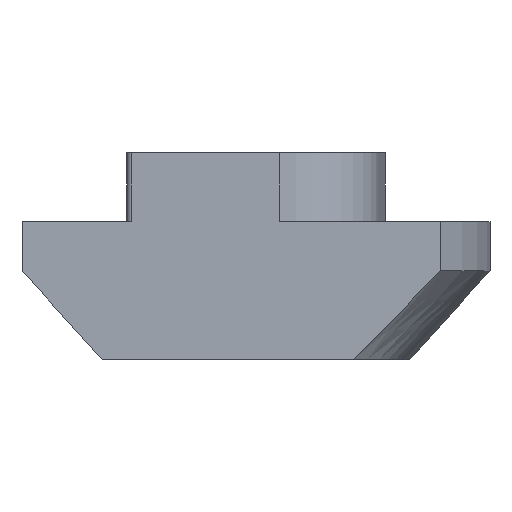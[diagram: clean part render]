
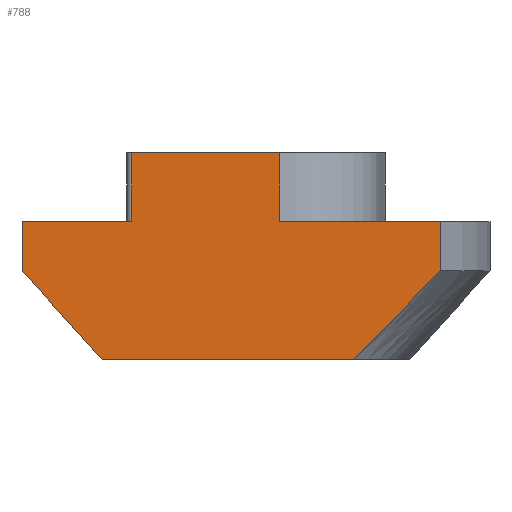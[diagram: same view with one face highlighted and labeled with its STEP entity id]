
A CAD part, front view. The second image highlights one B-rep face of the part: STEP entity #788.
In plain terms, the highlighted planar face has unit normal (0, -1, 0).
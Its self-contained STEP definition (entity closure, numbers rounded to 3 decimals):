
#118=CARTESIAN_POINT('',(-5.04,-4.9,2.8));
#119=VERTEX_POINT('',#118);
#129=CARTESIAN_POINT('',(0.956,-4.9,2.8));
#130=VERTEX_POINT('',#129);
#131=CARTESIAN_POINT('',(0.956,-4.9,2.8));
#132=DIRECTION('',(-1.0,0.0,0.0));
#133=VECTOR('',#132,5.996);
#134=LINE('',#131,#133);
#135=EDGE_CURVE('',#130,#119,#134,.T.);
#224=CARTESIAN_POINT('',(3.957,-4.9,-5.6));
#225=VERTEX_POINT('',#224);
#233=CARTESIAN_POINT('',(-6.251,-4.9,-5.6));
#234=VERTEX_POINT('',#233);
#235=CARTESIAN_POINT('',(-6.251,-4.9,-5.6));
#236=DIRECTION('',(1.0,0.0,0.0));
#237=VECTOR('',#236,10.208);
#238=LINE('',#235,#237);
#239=EDGE_CURVE('',#234,#225,#238,.T.);
#340=CARTESIAN_POINT('',(-9.5,-4.9,-2.0));
#341=VERTEX_POINT('',#340);
#342=CARTESIAN_POINT('',(-6.251,-4.9,-5.6));
#343=DIRECTION('',(-0.67,0.0,0.742));
#344=VECTOR('',#343,4.849);
#345=LINE('',#342,#344);
#346=EDGE_CURVE('',#234,#341,#345,.T.);
#409=CARTESIAN_POINT('',(7.5,-4.9,-2.0));
#410=VERTEX_POINT('',#409);
#418=CARTESIAN_POINT('',(3.957,-4.9,-5.6));
#419=CARTESIAN_POINT('',(5.138,-4.9,-4.4));
#420=CARTESIAN_POINT('',(6.319,-4.9,-3.2));
#421=CARTESIAN_POINT('',(7.5,-4.9,-2.0));
#422=QUASI_UNIFORM_CURVE('',3,(#418,#419,#420,#421),.UNSPECIFIED.,.F.,.U.);
#423=EDGE_CURVE('',#225,#410,#422,.T.);
#469=CARTESIAN_POINT('',(0.956,-4.9,0.0));
#470=VERTEX_POINT('',#469);
#480=CARTESIAN_POINT('',(7.5,-4.9,0.0));
#481=VERTEX_POINT('',#480);
#482=CARTESIAN_POINT('',(7.5,-4.9,0.0));
#483=DIRECTION('',(-1.0,0.0,0.0));
#484=VECTOR('',#483,6.544);
#485=LINE('',#482,#484);
#486=EDGE_CURVE('',#481,#470,#485,.T.);
#538=CARTESIAN_POINT('',(-5.04,-4.9,0.0));
#539=VERTEX_POINT('',#538);
#581=CARTESIAN_POINT('',(-9.5,-4.9,0.0));
#582=VERTEX_POINT('',#581);
#589=CARTESIAN_POINT('',(-5.04,-4.9,0.0));
#590=DIRECTION('',(-1.0,0.0,0.0));
#591=VECTOR('',#590,4.46);
#592=LINE('',#589,#591);
#593=EDGE_CURVE('',#539,#582,#592,.T.);
#611=CARTESIAN_POINT('',(7.5,-4.9,0.0));
#612=DIRECTION('',(0.0,0.0,-1.0));
#613=VECTOR('',#612,2.0);
#614=LINE('',#611,#613);
#615=EDGE_CURVE('',#481,#410,#614,.T.);
#665=CARTESIAN_POINT('',(-9.5,-4.9,0.0));
#666=DIRECTION('',(0.0,0.0,-1.0));
#667=VECTOR('',#666,2.0);
#668=LINE('',#665,#667);
#669=EDGE_CURVE('',#582,#341,#668,.T.);
#689=CARTESIAN_POINT('',(-5.04,-4.9,0.0));
#690=DIRECTION('',(0.0,0.0,1.0));
#691=VECTOR('',#690,2.8);
#692=LINE('',#689,#691);
#693=EDGE_CURVE('',#539,#119,#692,.T.);
#760=CARTESIAN_POINT('',(0.956,-4.9,2.8));
#761=DIRECTION('',(0.0,0.0,-1.0));
#762=VECTOR('',#761,2.8);
#763=LINE('',#760,#762);
#764=EDGE_CURVE('',#130,#470,#763,.T.);
#771=CARTESIAN_POINT('',(4.762,-4.9,0.0));
#772=DIRECTION('',(0.0,-1.0,0.0));
#773=DIRECTION('',(0.0,0.0,-1.0));
#774=AXIS2_PLACEMENT_3D('',#771,#772,#773);
#775=PLANE('',#774);
#776=ORIENTED_EDGE('',*,*,#693,.F.);
#777=ORIENTED_EDGE('',*,*,#593,.T.);
#778=ORIENTED_EDGE('',*,*,#669,.T.);
#779=ORIENTED_EDGE('',*,*,#346,.F.);
#780=ORIENTED_EDGE('',*,*,#239,.T.);
#781=ORIENTED_EDGE('',*,*,#423,.T.);
#782=ORIENTED_EDGE('',*,*,#615,.F.);
#783=ORIENTED_EDGE('',*,*,#486,.T.);
#784=ORIENTED_EDGE('',*,*,#764,.F.);
#785=ORIENTED_EDGE('',*,*,#135,.T.);
#786=EDGE_LOOP('',(#776,#777,#778,#779,#780,#781,#782,#783,#784,#785));
#787=FACE_OUTER_BOUND('',#786,.T.);
#788=ADVANCED_FACE('',(#787),#775,.T.);
